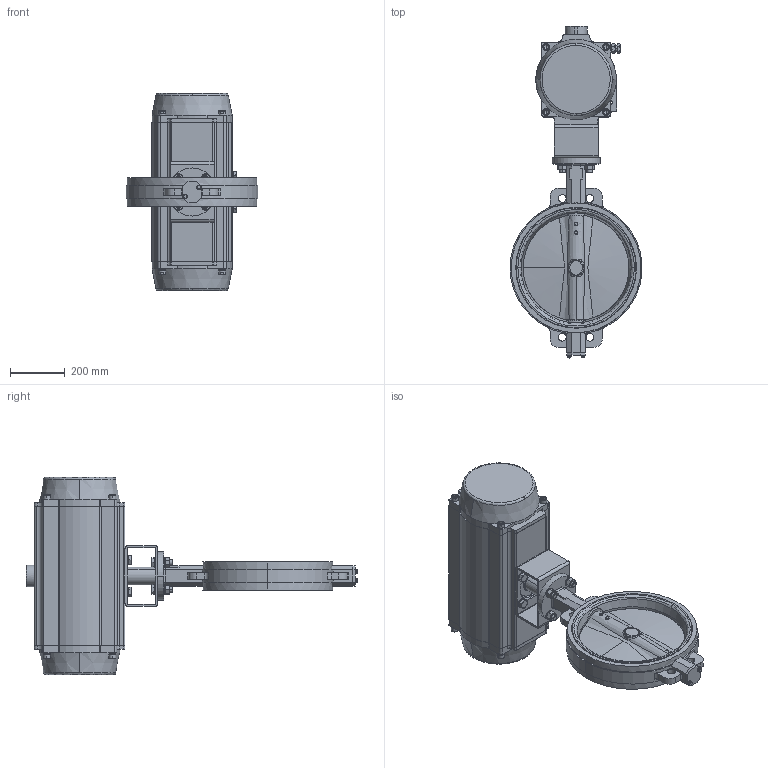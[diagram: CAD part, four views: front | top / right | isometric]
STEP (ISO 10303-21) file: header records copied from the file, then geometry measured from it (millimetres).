
FILE_DESCRIPTION (( 'STEP AP214' ), '1' );
FILE_NAME ('VPE440X-N07XX0400.STEP', '2020-09-03T16:18:33', ( '' ), ( '' ), 'SwSTEP 2.0', 'SolidWorks 2017', '' );
FILE_SCHEMA (( 'AUTOMOTIVE_DESIGN' ));
Length unit declared in the file: millimetre
Products named in the file (1): VPE440X-N07XX0400
Bounding box: 480.13 x 1208.35 x 718 mm (x, y, z)
Surface area: 2294265.8 mm2 (no closed solid volume)
Topology: 0 solids, 89 shells, 830 faces, 2619 edges, 1815 vertices
Faces by surface type: plane 359, cylinder 248, cone 124, bspline 67, torus 32
Entity records: 52645 total; most frequent: CARTESIAN_POINT 21544, DIRECTION 4442, ORIENTED_EDGE 4270, EDGE_CURVE 2603, VERTEX_POINT 1815, AXIS2_PLACEMENT_3D 1729, VECTOR 984, LINE 984
